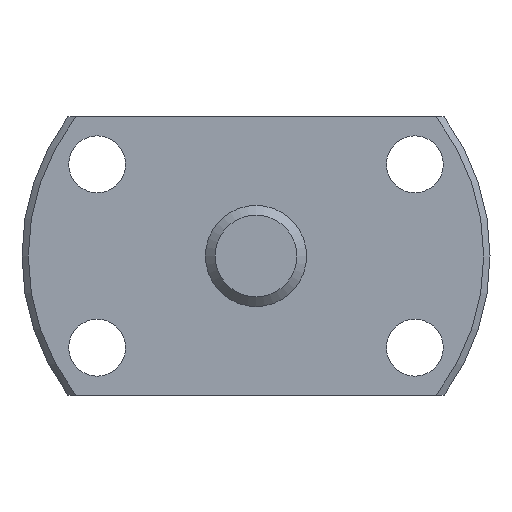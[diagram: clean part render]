
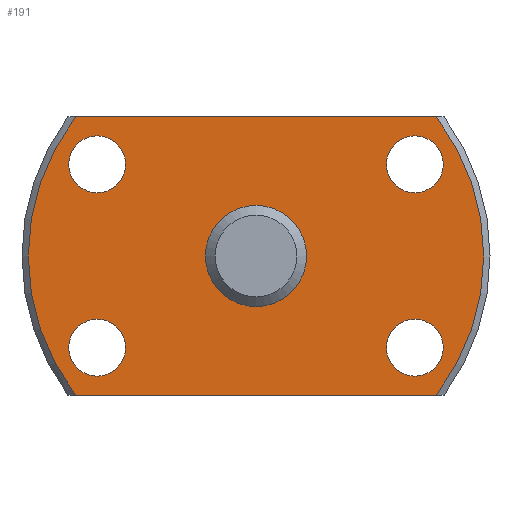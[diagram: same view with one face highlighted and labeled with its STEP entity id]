
A CAD part, left-side view. The second image highlights one B-rep face of the part: STEP entity #191.
In plain terms, the highlighted planar face has unit normal (-1, 0, 0).
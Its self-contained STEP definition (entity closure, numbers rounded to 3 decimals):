
#191 = ADVANCED_FACE( '', ( #271, #272, #273, #274, #275, #276 ), #277, .T. );
#271 = FACE_BOUND( '', #393, .T. );
#272 = FACE_BOUND( '', #394, .T. );
#273 = FACE_BOUND( '', #395, .T. );
#274 = FACE_BOUND( '', #396, .T. );
#275 = FACE_BOUND( '', #397, .T. );
#276 = FACE_OUTER_BOUND( '', #398, .T. );
#277 = PLANE( '', #399 );
#393 = EDGE_LOOP( '', ( #619 ) );
#394 = EDGE_LOOP( '', ( #620 ) );
#395 = EDGE_LOOP( '', ( #621 ) );
#396 = EDGE_LOOP( '', ( #622 ) );
#397 = EDGE_LOOP( '', ( #623 ) );
#398 = EDGE_LOOP( '', ( #624, #625, #626, #627 ) );
#399 = AXIS2_PLACEMENT_3D( '', #628, #629, #630 );
#619 = ORIENTED_EDGE( '', *, *, #854, .T. );
#620 = ORIENTED_EDGE( '', *, *, #856, .T. );
#621 = ORIENTED_EDGE( '', *, *, #857, .T. );
#622 = ORIENTED_EDGE( '', *, *, #858, .T. );
#623 = ORIENTED_EDGE( '', *, *, #859, .T. );
#624 = ORIENTED_EDGE( '', *, *, #848, .F. );
#625 = ORIENTED_EDGE( '', *, *, #860, .F. );
#626 = ORIENTED_EDGE( '', *, *, #819, .F. );
#627 = ORIENTED_EDGE( '', *, *, #861, .F. );
#628 = CARTESIAN_POINT( '', ( 0., 18., 0. ) );
#629 = DIRECTION( '', ( -1., 0., 0. ) );
#630 = DIRECTION( '', ( 0., 0., 1. ) );
#819 = EDGE_CURVE( '', #933, #935, #936, .T. );
#848 = EDGE_CURVE( '', #987, #989, #990, .T. );
#854 = EDGE_CURVE( '', #1000, #1000, #1001, .T. );
#856 = EDGE_CURVE( '', #1004, #1004, #1005, .T. );
#857 = EDGE_CURVE( '', #1006, #1006, #1007, .T. );
#858 = EDGE_CURVE( '', #1008, #1008, #1009, .T. );
#859 = EDGE_CURVE( '', #1010, #1010, #1011, .T. );
#860 = EDGE_CURVE( '', #935, #987, #1012, .T. );
#861 = EDGE_CURVE( '', #989, #933, #1013, .T. );
#933 = VERTEX_POINT( '', #1143 );
#935 = VERTEX_POINT( '', #1148 );
#936 = LINE( '', #1149, #1150 );
#987 = VERTEX_POINT( '', #1268 );
#989 = VERTEX_POINT( '', #1273 );
#990 = LINE( '', #1274, #1275 );
#1000 = VERTEX_POINT( '', #1293 );
#1001 = CIRCLE( '', #1294, 4. );
#1004 = VERTEX_POINT( '', #1297 );
#1005 = CIRCLE( '', #1298, 2.25 );
#1006 = VERTEX_POINT( '', #1299 );
#1007 = CIRCLE( '', #1300, 2.25 );
#1008 = VERTEX_POINT( '', #1301 );
#1009 = CIRCLE( '', #1302, 2.25 );
#1010 = VERTEX_POINT( '', #1303 );
#1011 = CIRCLE( '', #1304, 2.25 );
#1012 = CIRCLE( '', #1305, 18. );
#1013 = CIRCLE( '', #1306, 18. );
#1143 = CARTESIAN_POINT( '', ( 0., 14.248, 11. ) );
#1148 = CARTESIAN_POINT( '', ( 0., -14.248, 11. ) );
#1149 = CARTESIAN_POINT( '', ( 0., 18.5, 11. ) );
#1150 = VECTOR( '', #1398, 1000. );
#1268 = CARTESIAN_POINT( '', ( 0., -14.248, -11. ) );
#1273 = CARTESIAN_POINT( '', ( 0., 14.248, -11. ) );
#1274 = CARTESIAN_POINT( '', ( 0., -18.5, -11. ) );
#1275 = VECTOR( '', #1434, 1000. );
#1293 = CARTESIAN_POINT( '', ( 0., 0., -4. ) );
#1294 = AXIS2_PLACEMENT_3D( '', #1440, #1441, #1442 );
#1297 = CARTESIAN_POINT( '', ( 0., -12.557, 5. ) );
#1298 = AXIS2_PLACEMENT_3D( '', #1446, #1447, #1448 );
#1299 = CARTESIAN_POINT( '', ( 0., 12.557, -9.5 ) );
#1300 = AXIS2_PLACEMENT_3D( '', #1449, #1450, #1451 );
#1301 = CARTESIAN_POINT( '', ( 0., -12.557, -9.5 ) );
#1302 = AXIS2_PLACEMENT_3D( '', #1452, #1453, #1454 );
#1303 = CARTESIAN_POINT( '', ( 0., 12.557, 5. ) );
#1304 = AXIS2_PLACEMENT_3D( '', #1455, #1456, #1457 );
#1305 = AXIS2_PLACEMENT_3D( '', #1458, #1459, #1460 );
#1306 = AXIS2_PLACEMENT_3D( '', #1461, #1462, #1463 );
#1398 = DIRECTION( '', ( 0., -1., 0. ) );
#1434 = DIRECTION( '', ( 0., 1., 0. ) );
#1440 = CARTESIAN_POINT( '', ( 0., 0., 0. ) );
#1441 = DIRECTION( '', ( 1., 0., 0. ) );
#1442 = DIRECTION( '', ( 0., 0., -1. ) );
#1446 = CARTESIAN_POINT( '', ( 0., -12.557, 7.25 ) );
#1447 = DIRECTION( '', ( 1., 0., 0. ) );
#1448 = DIRECTION( '', ( 0., 0., -1. ) );
#1449 = CARTESIAN_POINT( '', ( 0., 12.557, -7.25 ) );
#1450 = DIRECTION( '', ( 1., 0., 0. ) );
#1451 = DIRECTION( '', ( 0., 0., -1. ) );
#1452 = CARTESIAN_POINT( '', ( 0., -12.557, -7.25 ) );
#1453 = DIRECTION( '', ( 1., 0., 0. ) );
#1454 = DIRECTION( '', ( 0., 0., -1. ) );
#1455 = CARTESIAN_POINT( '', ( 0., 12.557, 7.25 ) );
#1456 = DIRECTION( '', ( 1., 0., 0. ) );
#1457 = DIRECTION( '', ( 0., 0., -1. ) );
#1458 = CARTESIAN_POINT( '', ( 0., 0., 0. ) );
#1459 = DIRECTION( '', ( 1., 0., 0. ) );
#1460 = DIRECTION( '', ( 0., 0., -1. ) );
#1461 = CARTESIAN_POINT( '', ( 0., 0., 0. ) );
#1462 = DIRECTION( '', ( 1., 0., 0. ) );
#1463 = DIRECTION( '', ( 0., 0., -1. ) );
